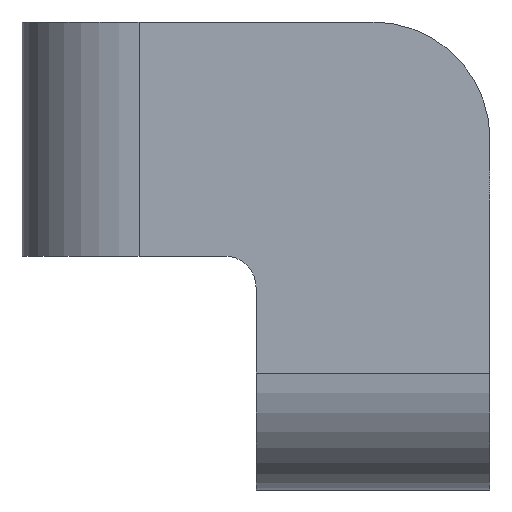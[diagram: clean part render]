
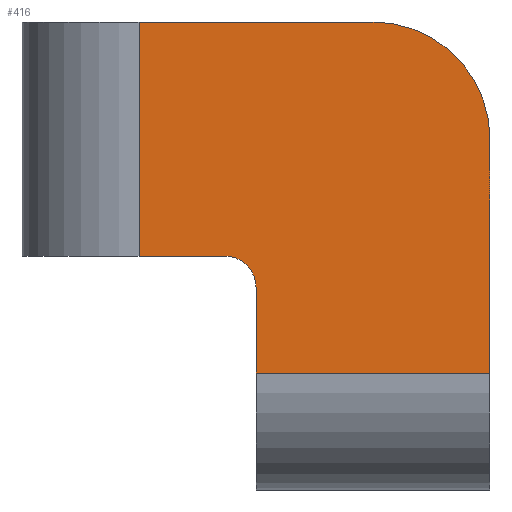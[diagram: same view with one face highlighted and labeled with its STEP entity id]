
A CAD part, front view. The second image highlights one B-rep face of the part: STEP entity #416.
In plain terms, the highlighted planar face has unit normal (0, -1, 0).
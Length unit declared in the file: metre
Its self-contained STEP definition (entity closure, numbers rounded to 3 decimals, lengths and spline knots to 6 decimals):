
#14=LINE('',#644,#48);
#15=LINE('',#650,#49);
#18=LINE('',#661,#52);
#19=LINE('',#663,#53);
#20=LINE('',#665,#54);
#21=LINE('',#668,#55);
#48=VECTOR('',#514,1.);
#49=VECTOR('',#521,1.);
#52=VECTOR('',#530,1.);
#53=VECTOR('',#531,1.);
#54=VECTOR('',#532,1.);
#55=VECTOR('',#535,1.);
#82=PLANE('',#462);
#109=ORIENTED_EDGE('',*,*,#210,.F.);
#110=ORIENTED_EDGE('',*,*,#217,.T.);
#111=ORIENTED_EDGE('',*,*,#218,.F.);
#112=ORIENTED_EDGE('',*,*,#219,.T.);
#113=ORIENTED_EDGE('',*,*,#220,.T.);
#114=ORIENTED_EDGE('',*,*,#221,.T.);
#115=ORIENTED_EDGE('',*,*,#213,.F.);
#116=ORIENTED_EDGE('',*,*,#222,.F.);
#210=EDGE_CURVE('',#264,#265,#14,.T.);
#213=EDGE_CURVE('',#267,#268,#15,.T.);
#217=EDGE_CURVE('',#264,#271,#305,.F.);
#218=EDGE_CURVE('',#272,#271,#18,.T.);
#219=EDGE_CURVE('',#272,#273,#19,.T.);
#220=EDGE_CURVE('',#273,#274,#20,.T.);
#221=EDGE_CURVE('',#274,#268,#306,.T.);
#222=EDGE_CURVE('',#265,#267,#21,.T.);
#264=VERTEX_POINT('',#643);
#265=VERTEX_POINT('',#645);
#267=VERTEX_POINT('',#651);
#268=VERTEX_POINT('',#652);
#271=VERTEX_POINT('',#660);
#272=VERTEX_POINT('',#662);
#273=VERTEX_POINT('',#664);
#274=VERTEX_POINT('',#666);
#305=CIRCLE('',#463,0.0075);
#306=CIRCLE('',#464,0.002);
#325=EDGE_LOOP('',(#109,#110,#111,#112,#113,#114,#115,#116));
#367=FACE_BOUND('',#325,.T.);
#416=ADVANCED_FACE('',(#367),#82,.F.);
#462=AXIS2_PLACEMENT_3D('',#658,#526,#527);
#463=AXIS2_PLACEMENT_3D('',#659,#528,#529);
#464=AXIS2_PLACEMENT_3D('',#667,#533,#534);
#514=DIRECTION('',(0.,0.,-1.));
#521=DIRECTION('',(0.,0.,1.));
#526=DIRECTION('',(0.,1.,0.));
#527=DIRECTION('',(0.,0.,1.));
#528=DIRECTION('',(0.,1.,0.));
#529=DIRECTION('',(0.,0.,1.));
#530=DIRECTION('',(1.,0.,0.));
#531=DIRECTION('',(0.,0.,-1.));
#532=DIRECTION('',(1.,0.,0.));
#533=DIRECTION('',(0.,1.,0.));
#534=DIRECTION('',(0.,0.,1.));
#535=DIRECTION('',(-1.,0.,0.));
#643=CARTESIAN_POINT('',(0.1015,-0.04,-0.004));
#644=CARTESIAN_POINT('',(0.1015,-0.04,0.0035));
#645=CARTESIAN_POINT('',(0.1015,-0.04,-0.019));
#650=CARTESIAN_POINT('',(0.0865,-0.04,-0.0265));
#651=CARTESIAN_POINT('',(0.0865,-0.04,-0.019));
#652=CARTESIAN_POINT('',(0.0865,-0.04,-0.0135));
#658=CARTESIAN_POINT('',(0.09025,-0.04,0.0035));
#659=CARTESIAN_POINT('',(0.094,-0.04,-0.004));
#660=CARTESIAN_POINT('',(0.094,-0.04,0.0035));
#661=CARTESIAN_POINT('',(0.09025,-0.04,0.0035));
#662=CARTESIAN_POINT('',(0.079,-0.04,0.0035));
#663=CARTESIAN_POINT('',(0.079,-0.04,0.0035));
#664=CARTESIAN_POINT('',(0.079,-0.04,-0.0115));
#665=CARTESIAN_POINT('',(0.09025,-0.04,-0.0115));
#666=CARTESIAN_POINT('',(0.0845,-0.04,-0.0115));
#667=CARTESIAN_POINT('',(0.0845,-0.04,-0.0135));
#668=CARTESIAN_POINT('',(0.1115,-0.04,-0.019));
